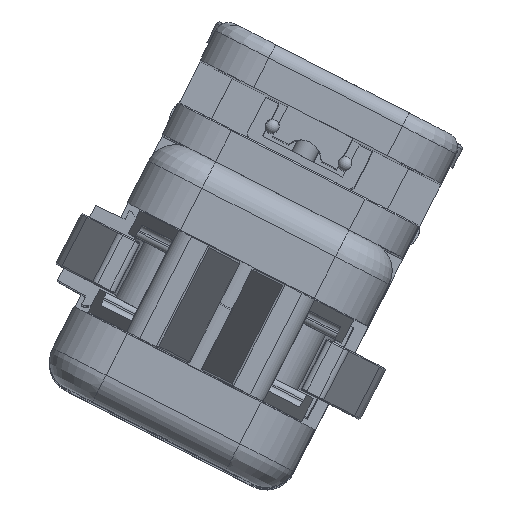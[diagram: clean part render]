
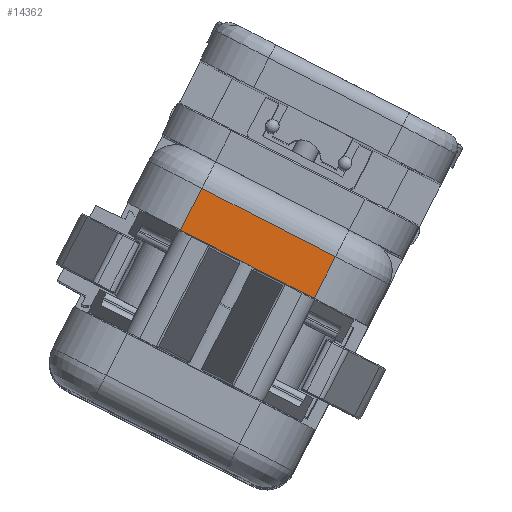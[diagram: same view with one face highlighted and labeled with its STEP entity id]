
A CAD part, top view. The second image highlights one B-rep face of the part: STEP entity #14362.
In plain terms, the highlighted planar face has unit normal (0, 0, 1).
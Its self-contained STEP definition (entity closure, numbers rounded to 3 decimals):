
#510=FACE_OUTER_BOUND('',#18091,.T.);
#1516=LINE('',#39353,#3068);
#1523=LINE('',#39502,#3075);
#1524=LINE('',#39504,#3076);
#1525=LINE('',#39506,#3077);
#3068=VECTOR('',#32903,1.);
#3075=VECTOR('',#32953,1.);
#3076=VECTOR('',#32956,1.);
#3077=VECTOR('',#32957,1.);
#13507=PLANE('',#29859);
#14362=ADVANCED_FACE('',(#510),#13507,.F.);
#18091=EDGE_LOOP('',(#20528,#20529,#20530,#20531));
#20528=ORIENTED_EDGE('',*,*,#27273,.F.);
#20529=ORIENTED_EDGE('',*,*,#27274,.T.);
#20530=ORIENTED_EDGE('',*,*,#27275,.F.);
#20531=ORIENTED_EDGE('',*,*,#27249,.F.);
#25274=VERTEX_POINT('',#39334);
#25277=VERTEX_POINT('',#39352);
#25287=VERTEX_POINT('',#39501);
#25288=VERTEX_POINT('',#39505);
#27249=EDGE_CURVE('',#25277,#25274,#1516,.T.);
#27273=EDGE_CURVE('',#25287,#25277,#1523,.T.);
#27274=EDGE_CURVE('',#25287,#25288,#1524,.T.);
#27275=EDGE_CURVE('',#25274,#25288,#1525,.T.);
#29859=AXIS2_PLACEMENT_3D('',#39507,#32958,#32959);
#32903=DIRECTION('',(0.89,-0.456,0.));
#32953=DIRECTION('',(0.456,0.89,0.));
#32956=DIRECTION('',(0.89,-0.456,0.));
#32957=DIRECTION('',(-0.456,-0.89,0.));
#32958=DIRECTION('',(0.,0.,-1.));
#32959=DIRECTION('',(-0.89,0.456,0.));
#39334=CARTESIAN_POINT('',(19.103,9.878,349.));
#39352=CARTESIAN_POINT('',(-3.149,21.274,349.));
#39353=CARTESIAN_POINT('',(7.977,15.576,349.));
#39501=CARTESIAN_POINT('',(-6.704,14.331,349.));
#39502=CARTESIAN_POINT('',(-0.87,25.724,349.));
#39504=CARTESIAN_POINT('',(4.421,8.634,349.));
#39505=CARTESIAN_POINT('',(15.547,2.936,349.));
#39506=CARTESIAN_POINT('',(21.382,14.329,349.));
#39507=CARTESIAN_POINT('',(30.283,9.771,349.));
